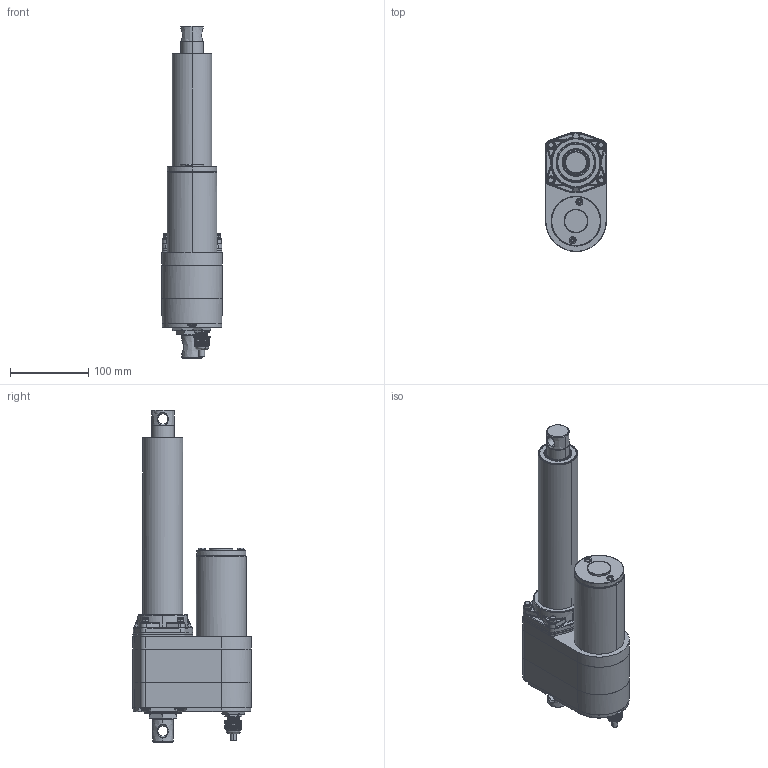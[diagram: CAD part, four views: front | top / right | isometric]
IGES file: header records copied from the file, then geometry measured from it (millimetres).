
Start section: SolidWorks IGES file using NURBS representation for surfaces
Global section: file name: C:\Users\lynn\Desktop\ID10P-24-B-LT-IP67.IGS; native system: SolidWorks 2015; preprocessor: SolidWorks 2015; author: lynn; date: 200819.164034; units: millimetre
Bounding box: 77.3 x 151.72 x 423.5 mm (x, y, z)
Surface area: 187950.1 mm2 (no closed solid volume)
Topology: 0 solids, 0 shells, 2459 faces, 20503 edges, 20473 vertices
Faces by surface type: bspline 2459
